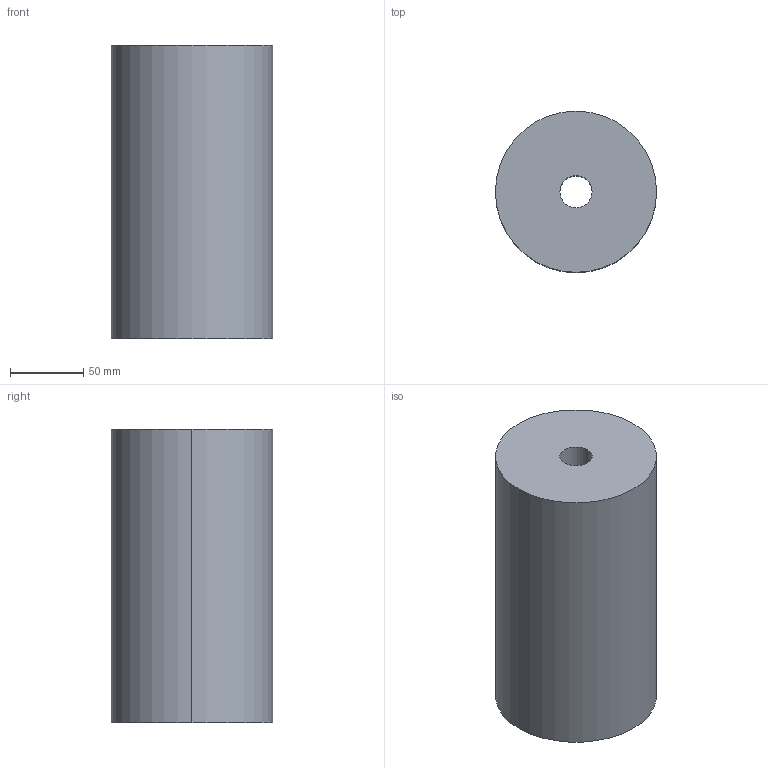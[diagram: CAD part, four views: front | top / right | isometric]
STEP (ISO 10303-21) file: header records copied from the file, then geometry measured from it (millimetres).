
FILE_DESCRIPTION(/* description */ (''),/* implementation_level */ '2;1');
FILE_NAME(/* name */ '3d_e110-200_03724_r00.stp',/* time_stamp */ '2011-01-10T14:15:49+09:00',/* author */ ('MISUMI'),/* organization */ (''),/* preprocessor_version */ 'ST-DEVELOPER v11',/* originating_system */ 'UGS - NX 5.0',/* authorisation */ '');
FILE_SCHEMA (('CONFIG_CONTROL_DESIGN'));
Length unit declared in the file: millimetre
Products named in the file (1): 3d_e110-200_03724_r00
Bounding box: 110 x 110 x 200 mm (x, y, z)
Volume: 1824637 mm3; surface area: 101184.4 mm2
Topology: 1 solids, 1 shells, 6 faces, 12 edges, 8 vertices
Faces by surface type: cylinder 4, plane 2
Entity records: 254 total; most frequent: DIRECTION 34, CARTESIAN_POINT 27, ORIENTED_EDGE 24, AXIS2_PLACEMENT_3D 15, EDGE_CURVE 12, EDGE_LOOP 8, VERTEX_POINT 8, CIRCLE 8
